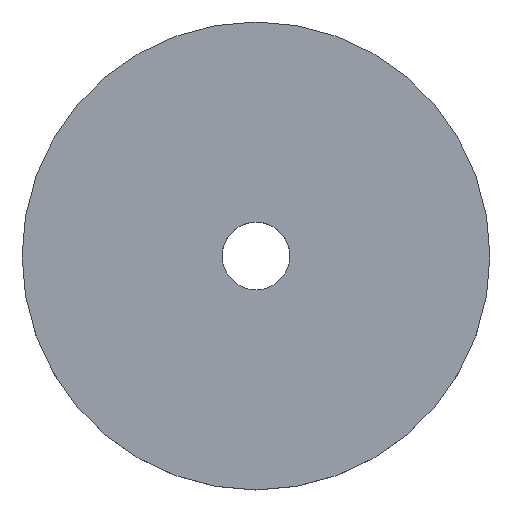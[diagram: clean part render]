
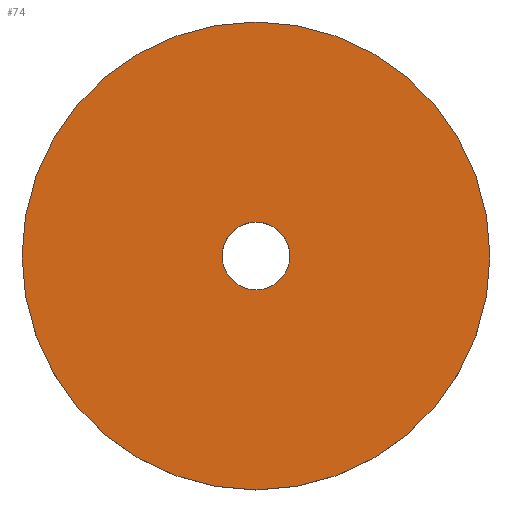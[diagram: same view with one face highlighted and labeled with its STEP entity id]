
A CAD part, top view. The second image highlights one B-rep face of the part: STEP entity #74.
In plain terms, the highlighted planar face has unit normal (0, 0, 1).
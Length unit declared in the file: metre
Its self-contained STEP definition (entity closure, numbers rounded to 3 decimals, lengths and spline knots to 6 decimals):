
#12=PLANE('',#97);
#19=ORIENTED_EDGE('',*,*,#27,.T.);
#20=ORIENTED_EDGE('',*,*,#29,.F.);
#27=EDGE_CURVE('',#33,#33,#39,.T.);
#29=EDGE_CURVE('',#35,#35,#41,.T.);
#33=VERTEX_POINT('',#132);
#35=VERTEX_POINT('',#137);
#39=CIRCLE('',#92,0.01);
#41=CIRCLE('',#95,0.00145);
#49=EDGE_LOOP('',(#19));
#50=EDGE_LOOP('',(#20));
#61=FACE_BOUND('',#49,.T.);
#62=FACE_BOUND('',#50,.T.);
#74=ADVANCED_FACE('',(#61,#62),#12,.T.);
#92=AXIS2_PLACEMENT_3D('',#131,#107,#108);
#95=AXIS2_PLACEMENT_3D('',#136,#113,#114);
#97=AXIS2_PLACEMENT_3D('',#140,#117,#118);
#107=DIRECTION('',(0.,0.,1.));
#108=DIRECTION('',(1.,0.,0.));
#113=DIRECTION('',(0.,0.,1.));
#114=DIRECTION('',(1.,0.,0.));
#117=DIRECTION('',(0.,0.,1.));
#118=DIRECTION('',(1.,0.,0.));
#131=CARTESIAN_POINT('',(0.,0.,0.002));
#132=CARTESIAN_POINT('',(0.01,0.,0.002));
#136=CARTESIAN_POINT('',(0.,0.,0.002));
#137=CARTESIAN_POINT('',(0.00145,0.,0.002));
#140=CARTESIAN_POINT('',(0.,0.,0.002));
